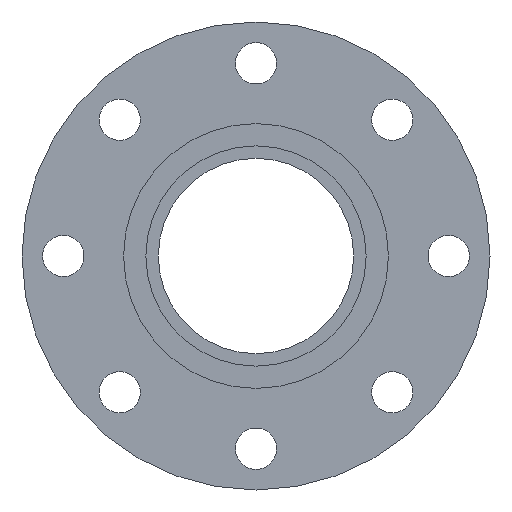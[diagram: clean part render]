
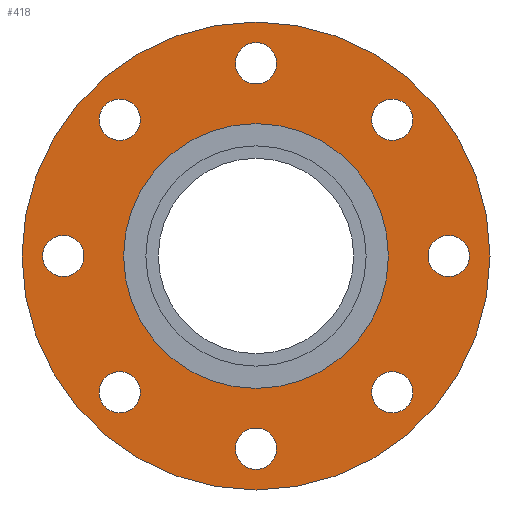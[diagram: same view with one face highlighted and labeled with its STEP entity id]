
A CAD part, left-side view. The second image highlights one B-rep face of the part: STEP entity #418.
In plain terms, the highlighted planar face has unit normal (-1, 0, 0).
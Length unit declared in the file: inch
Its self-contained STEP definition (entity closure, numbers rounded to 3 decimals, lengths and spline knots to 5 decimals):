
#14=FACE_BOUND('',#72,.T.);
#15=FACE_BOUND('',#73,.T.);
#16=FACE_BOUND('',#74,.T.);
#17=FACE_BOUND('',#75,.T.);
#18=FACE_BOUND('',#76,.T.);
#19=FACE_BOUND('',#77,.T.);
#20=FACE_BOUND('',#78,.T.);
#21=FACE_BOUND('',#79,.T.);
#22=FACE_BOUND('',#80,.T.);
#36=PLANE('',#478);
#51=FACE_OUTER_BOUND('',#71,.T.);
#71=EDGE_LOOP('',(#304,#305));
#72=EDGE_LOOP('',(#306));
#73=EDGE_LOOP('',(#307));
#74=EDGE_LOOP('',(#308));
#75=EDGE_LOOP('',(#309));
#76=EDGE_LOOP('',(#310));
#77=EDGE_LOOP('',(#311));
#78=EDGE_LOOP('',(#312));
#79=EDGE_LOOP('',(#313));
#80=EDGE_LOOP('',(#314,#315));
#133=CIRCLE('',#451,0.375);
#135=CIRCLE('',#454,0.375);
#137=CIRCLE('',#457,0.375);
#139=CIRCLE('',#460,0.375);
#141=CIRCLE('',#463,0.375);
#143=CIRCLE('',#466,0.375);
#145=CIRCLE('',#469,0.375);
#147=CIRCLE('',#472,0.375);
#148=CIRCLE('',#474,4.25);
#149=CIRCLE('',#475,4.25);
#152=CIRCLE('',#479,2.405);
#153=CIRCLE('',#480,2.405);
#173=VERTEX_POINT('',#649);
#175=VERTEX_POINT('',#655);
#177=VERTEX_POINT('',#661);
#179=VERTEX_POINT('',#667);
#181=VERTEX_POINT('',#673);
#183=VERTEX_POINT('',#679);
#185=VERTEX_POINT('',#685);
#187=VERTEX_POINT('',#691);
#188=VERTEX_POINT('',#695);
#189=VERTEX_POINT('',#696);
#192=VERTEX_POINT('',#705);
#193=VERTEX_POINT('',#706);
#214=EDGE_CURVE('',#173,#173,#133,.T.);
#217=EDGE_CURVE('',#175,#175,#135,.T.);
#220=EDGE_CURVE('',#177,#177,#137,.T.);
#223=EDGE_CURVE('',#179,#179,#139,.T.);
#226=EDGE_CURVE('',#181,#181,#141,.T.);
#229=EDGE_CURVE('',#183,#183,#143,.T.);
#232=EDGE_CURVE('',#185,#185,#145,.T.);
#235=EDGE_CURVE('',#187,#187,#147,.T.);
#236=EDGE_CURVE('',#188,#189,#148,.T.);
#237=EDGE_CURVE('',#189,#188,#149,.T.);
#241=EDGE_CURVE('',#192,#193,#152,.T.);
#242=EDGE_CURVE('',#193,#192,#153,.T.);
#304=ORIENTED_EDGE('',*,*,#236,.T.);
#305=ORIENTED_EDGE('',*,*,#237,.T.);
#306=ORIENTED_EDGE('',*,*,#214,.T.);
#307=ORIENTED_EDGE('',*,*,#217,.T.);
#308=ORIENTED_EDGE('',*,*,#220,.T.);
#309=ORIENTED_EDGE('',*,*,#223,.T.);
#310=ORIENTED_EDGE('',*,*,#226,.T.);
#311=ORIENTED_EDGE('',*,*,#229,.T.);
#312=ORIENTED_EDGE('',*,*,#232,.T.);
#313=ORIENTED_EDGE('',*,*,#235,.T.);
#314=ORIENTED_EDGE('',*,*,#241,.F.);
#315=ORIENTED_EDGE('',*,*,#242,.F.);
#418=ADVANCED_FACE('',(#51,#14,#15,#16,#17,#18,#19,#20,#21,#22),#36,.T.);
#451=AXIS2_PLACEMENT_3D('',#651,#516,#517);
#454=AXIS2_PLACEMENT_3D('',#657,#523,#524);
#457=AXIS2_PLACEMENT_3D('',#663,#530,#531);
#460=AXIS2_PLACEMENT_3D('',#669,#537,#538);
#463=AXIS2_PLACEMENT_3D('',#675,#544,#545);
#466=AXIS2_PLACEMENT_3D('',#681,#551,#552);
#469=AXIS2_PLACEMENT_3D('',#687,#558,#559);
#472=AXIS2_PLACEMENT_3D('',#693,#565,#566);
#474=AXIS2_PLACEMENT_3D('',#697,#569,#570);
#475=AXIS2_PLACEMENT_3D('',#698,#571,#572);
#478=AXIS2_PLACEMENT_3D('',#704,#578,#579);
#479=AXIS2_PLACEMENT_3D('',#707,#580,#581);
#480=AXIS2_PLACEMENT_3D('',#708,#582,#583);
#516=DIRECTION('center_axis',(1.,0.,0.));
#517=DIRECTION('ref_axis',(0.,-0.707,0.707));
#523=DIRECTION('center_axis',(1.,0.,0.));
#524=DIRECTION('ref_axis',(0.,-1.,0.));
#530=DIRECTION('center_axis',(1.,0.,0.));
#531=DIRECTION('ref_axis',(0.,-0.707,-0.707));
#537=DIRECTION('center_axis',(1.,0.,0.));
#538=DIRECTION('ref_axis',(0.,0.,-1.));
#544=DIRECTION('center_axis',(1.,0.,0.));
#545=DIRECTION('ref_axis',(0.,0.707,-0.707));
#551=DIRECTION('center_axis',(1.,0.,0.));
#552=DIRECTION('ref_axis',(0.,1.,0.));
#558=DIRECTION('center_axis',(1.,0.,0.));
#559=DIRECTION('ref_axis',(0.,0.707,0.707));
#565=DIRECTION('center_axis',(1.,0.,0.));
#566=DIRECTION('ref_axis',(0.,0.,1.));
#569=DIRECTION('center_axis',(-1.,0.,0.));
#570=DIRECTION('ref_axis',(0.,0.,1.));
#571=DIRECTION('center_axis',(-1.,0.,0.));
#572=DIRECTION('ref_axis',(0.,0.,1.));
#578=DIRECTION('center_axis',(-1.,0.,0.));
#579=DIRECTION('ref_axis',(0.,0.,1.));
#580=DIRECTION('center_axis',(-1.,0.,0.));
#581=DIRECTION('ref_axis',(0.,0.,1.));
#582=DIRECTION('center_axis',(-1.,0.,0.));
#583=DIRECTION('ref_axis',(0.,0.,1.));
#649=CARTESIAN_POINT('',(-0.94,2.74004,-2.74004));
#651=CARTESIAN_POINT('Origin',(-0.94,2.47487,-2.47487));
#655=CARTESIAN_POINT('',(-0.94,3.875,0.));
#657=CARTESIAN_POINT('Origin',(-0.94,3.5,0.));
#661=CARTESIAN_POINT('',(-0.94,2.74004,2.74004));
#663=CARTESIAN_POINT('Origin',(-0.94,2.47487,2.47487));
#667=CARTESIAN_POINT('',(-0.94,0.,3.875));
#669=CARTESIAN_POINT('Origin',(-0.94,0.,3.5));
#673=CARTESIAN_POINT('',(-0.94,-2.74004,2.74004));
#675=CARTESIAN_POINT('Origin',(-0.94,-2.47487,2.47487));
#679=CARTESIAN_POINT('',(-0.94,-3.875,0.));
#681=CARTESIAN_POINT('Origin',(-0.94,-3.5,0.));
#685=CARTESIAN_POINT('',(-0.94,-2.74004,-2.74004));
#687=CARTESIAN_POINT('Origin',(-0.94,-2.47487,-2.47487));
#691=CARTESIAN_POINT('',(-0.94,0.,-3.875));
#693=CARTESIAN_POINT('Origin',(-0.94,0.,-3.5));
#695=CARTESIAN_POINT('',(-0.94,0.,4.25));
#696=CARTESIAN_POINT('',(-0.94,0.,-4.25));
#697=CARTESIAN_POINT('Origin',(-0.94,0.,0.));
#698=CARTESIAN_POINT('Origin',(-0.94,0.,0.));
#704=CARTESIAN_POINT('Origin',(-0.94,0.,3.3275));
#705=CARTESIAN_POINT('',(-0.94,0.,2.405));
#706=CARTESIAN_POINT('',(-0.94,0.,-2.405));
#707=CARTESIAN_POINT('Origin',(-0.94,0.,0.));
#708=CARTESIAN_POINT('Origin',(-0.94,0.,0.));
